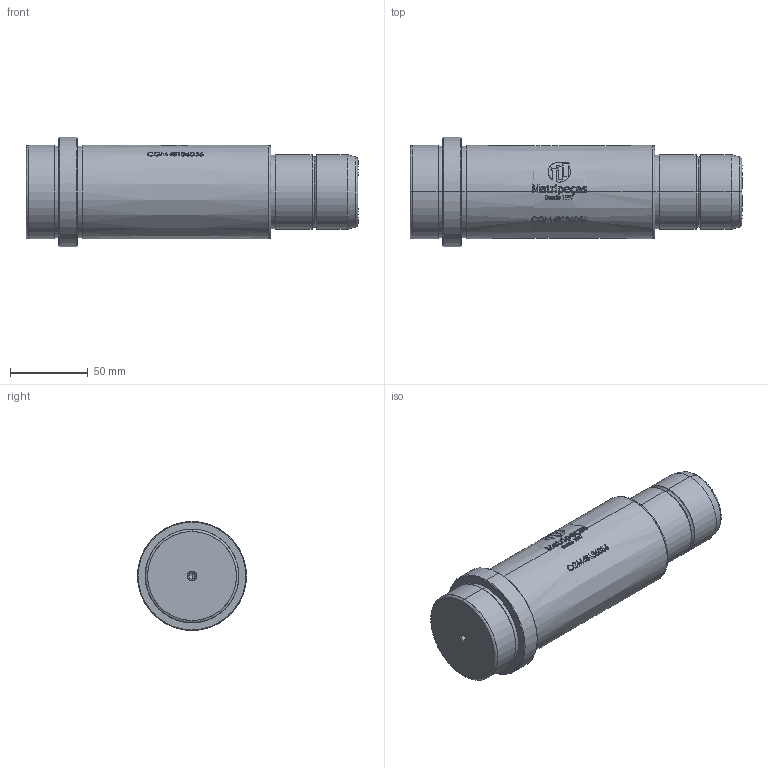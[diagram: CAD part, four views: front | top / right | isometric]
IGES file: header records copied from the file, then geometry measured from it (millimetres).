
Start section: SolidWorks IGES file using analytic representation for surfaces
Global section: file name: E:\1.TRIVECTOR\Clientes\MATRIPEÇAS\PEÇAS_CATALOGO_SITE\6.CGM - COLUNA PRINCIPAL TIPO GUIA (CATÁLOGO)\CGM48136056.IGS; native system: SolidWorks 2024; preprocessor: SolidWorks 2024; author: Gabriel Techio; date: 260910.165811; units: millimetre
Bounding box: 213 x 70 x 70 mm (x, y, z)
Surface area: 46352.4 mm2 (no closed solid volume)
Topology: 0 solids, 0 shells, 520 faces, 6744 edges, 6740 vertices
Faces by surface type: bspline 419, revolution 101
